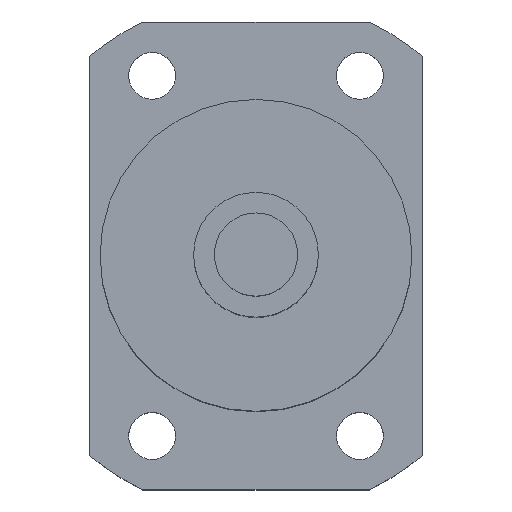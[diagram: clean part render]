
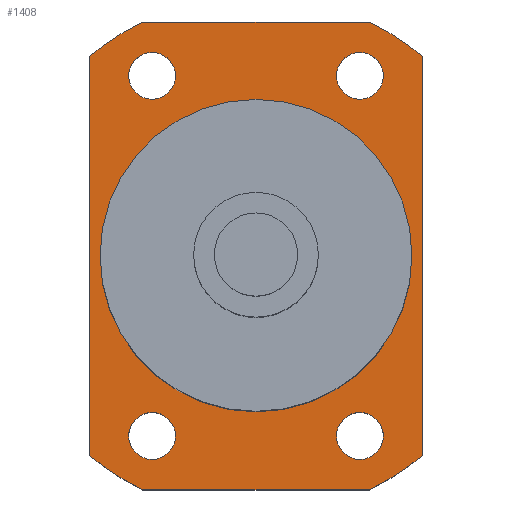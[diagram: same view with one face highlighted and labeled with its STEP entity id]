
A CAD part, top view. The second image highlights one B-rep face of the part: STEP entity #1408.
In plain terms, the highlighted planar face has unit normal (0, 0, 1).
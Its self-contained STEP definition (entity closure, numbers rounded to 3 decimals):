
#328=CARTESIAN_POINT('',(10.,17.321,105.));
#329=DIRECTION('',(0.,0.,-1.));
#330=DIRECTION('',(1.,0.,0.));
#331=AXIS2_PLACEMENT_3D('',#328,#329,#330);
#333=CARTESIAN_POINT('',(10.,17.321,105.));
#334=DIRECTION('',(0.,0.,-1.));
#335=DIRECTION('',(-1.,0.,0.));
#336=AXIS2_PLACEMENT_3D('',#333,#334,#335);
#338=CARTESIAN_POINT('',(-10.,17.321,105.));
#339=DIRECTION('',(0.,0.,-1.));
#340=DIRECTION('',(1.,0.,0.));
#341=AXIS2_PLACEMENT_3D('',#338,#339,#340);
#343=CARTESIAN_POINT('',(-10.,17.321,105.));
#344=DIRECTION('',(0.,0.,-1.));
#345=DIRECTION('',(-1.,0.,0.));
#346=AXIS2_PLACEMENT_3D('',#343,#344,#345);
#348=CARTESIAN_POINT('',(10.,-17.321,105.));
#349=DIRECTION('',(0.,0.,-1.));
#350=DIRECTION('',(1.,0.,0.));
#351=AXIS2_PLACEMENT_3D('',#348,#349,#350);
#353=CARTESIAN_POINT('',(10.,-17.321,105.));
#354=DIRECTION('',(0.,0.,-1.));
#355=DIRECTION('',(-1.,0.,0.));
#356=AXIS2_PLACEMENT_3D('',#353,#354,#355);
#358=CARTESIAN_POINT('',(-10.,-17.321,105.));
#359=DIRECTION('',(0.,0.,-1.));
#360=DIRECTION('',(1.,0.,0.));
#361=AXIS2_PLACEMENT_3D('',#358,#359,#360);
#363=CARTESIAN_POINT('',(-10.,-17.321,105.));
#364=DIRECTION('',(0.,0.,-1.));
#365=DIRECTION('',(-1.,0.,0.));
#366=AXIS2_PLACEMENT_3D('',#363,#364,#365);
#368=CARTESIAN_POINT('',(0.,0.,105.));
#369=DIRECTION('',(0.,0.,1.));
#370=DIRECTION('',(1.,0.,0.));
#371=AXIS2_PLACEMENT_3D('',#368,#369,#370);
#373=CARTESIAN_POINT('',(0.,0.,105.));
#374=DIRECTION('',(0.,0.,1.));
#375=DIRECTION('',(-1.,0.,0.));
#376=AXIS2_PLACEMENT_3D('',#373,#374,#375);
#378=DIRECTION('',(1.,0.,0.));
#379=VECTOR('',#378,21.794);
#380=CARTESIAN_POINT('',(-10.897,22.5,105.));
#381=LINE('',#380,#379);
#382=CARTESIAN_POINT('',(0.,0.,105.));
#383=DIRECTION('',(0.,0.,1.));
#384=DIRECTION('',(0.64,0.768,0.));
#385=AXIS2_PLACEMENT_3D('',#382,#383,#384);
#387=DIRECTION('',(0.,1.,0.));
#388=VECTOR('',#387,38.419);
#389=CARTESIAN_POINT('',(16.,-19.209,105.));
#390=LINE('',#389,#388);
#391=CARTESIAN_POINT('',(0.,0.,105.));
#392=DIRECTION('',(0.,0.,1.));
#393=DIRECTION('',(0.436,-0.9,0.));
#394=AXIS2_PLACEMENT_3D('',#391,#392,#393);
#396=DIRECTION('',(1.,0.,0.));
#397=VECTOR('',#396,21.794);
#398=CARTESIAN_POINT('',(-10.897,-22.5,105.));
#399=LINE('',#398,#397);
#400=CARTESIAN_POINT('',(0.,0.,105.));
#401=DIRECTION('',(0.,0.,1.));
#402=DIRECTION('',(-0.64,-0.768,0.));
#403=AXIS2_PLACEMENT_3D('',#400,#401,#402);
#405=DIRECTION('',(0.,-1.,0.));
#406=VECTOR('',#405,38.419);
#407=CARTESIAN_POINT('',(-16.,19.209,105.));
#408=LINE('',#407,#406);
#409=CARTESIAN_POINT('',(0.,0.,105.));
#410=DIRECTION('',(0.,0.,1.));
#411=DIRECTION('',(-0.436,0.9,0.));
#412=AXIS2_PLACEMENT_3D('',#409,#410,#411);
#721=CARTESIAN_POINT('',(12.25,17.321,105.));
#722=CARTESIAN_POINT('',(7.75,17.321,105.));
#723=VERTEX_POINT('',#721);
#724=VERTEX_POINT('',#722);
#725=CARTESIAN_POINT('',(-7.75,17.321,105.));
#726=CARTESIAN_POINT('',(-12.25,17.321,105.));
#727=VERTEX_POINT('',#725);
#728=VERTEX_POINT('',#726);
#729=CARTESIAN_POINT('',(12.25,-17.321,105.));
#730=CARTESIAN_POINT('',(7.75,-17.321,105.));
#731=VERTEX_POINT('',#729);
#732=VERTEX_POINT('',#730);
#733=CARTESIAN_POINT('',(-7.75,-17.321,105.));
#734=CARTESIAN_POINT('',(-12.25,-17.321,105.));
#735=VERTEX_POINT('',#733);
#736=VERTEX_POINT('',#734);
#737=CARTESIAN_POINT('',(-16.,19.209,105.));
#738=CARTESIAN_POINT('',(-16.,-19.209,105.));
#739=VERTEX_POINT('',#737);
#740=VERTEX_POINT('',#738);
#741=CARTESIAN_POINT('',(16.,-19.209,105.));
#742=CARTESIAN_POINT('',(16.,19.209,105.));
#743=VERTEX_POINT('',#741);
#744=VERTEX_POINT('',#742);
#753=CARTESIAN_POINT('',(15.,0.,105.));
#754=CARTESIAN_POINT('',(-15.,0.,105.));
#755=VERTEX_POINT('',#753);
#756=VERTEX_POINT('',#754);
#829=CARTESIAN_POINT('',(-10.897,22.5,105.));
#830=CARTESIAN_POINT('',(10.897,22.5,105.));
#831=VERTEX_POINT('',#829);
#832=VERTEX_POINT('',#830);
#833=CARTESIAN_POINT('',(-10.897,-22.5,105.));
#834=CARTESIAN_POINT('',(10.897,-22.5,105.));
#835=VERTEX_POINT('',#833);
#836=VERTEX_POINT('',#834);
#1357=CARTESIAN_POINT('',(0.,0.,105.));
#1358=DIRECTION('',(0.,0.,1.));
#1359=DIRECTION('',(1.,0.,0.));
#1360=AXIS2_PLACEMENT_3D('',#1357,#1358,#1359);
#1361=PLANE('',#1360);
#1363=ORIENTED_EDGE('',*,*,#1362,.T.);
#1365=ORIENTED_EDGE('',*,*,#1364,.F.);
#1367=ORIENTED_EDGE('',*,*,#1366,.F.);
#1369=ORIENTED_EDGE('',*,*,#1368,.F.);
#1371=ORIENTED_EDGE('',*,*,#1370,.F.);
#1373=ORIENTED_EDGE('',*,*,#1372,.F.);
#1375=ORIENTED_EDGE('',*,*,#1374,.F.);
#1377=ORIENTED_EDGE('',*,*,#1376,.F.);
#1378=EDGE_LOOP('',(#1363,#1365,#1367,#1369,#1371,#1373,#1375,#1377));
#1379=FACE_OUTER_BOUND('',#1378,.F.);
#1380=ORIENTED_EDGE('',*,*,#1337,.F.);
#1381=ORIENTED_EDGE('',*,*,#1351,.F.);
#1382=EDGE_LOOP('',(#1380,#1381));
#1383=FACE_BOUND('',#1382,.F.);
#1385=ORIENTED_EDGE('',*,*,#1384,.F.);
#1387=ORIENTED_EDGE('',*,*,#1386,.F.);
#1388=EDGE_LOOP('',(#1385,#1387));
#1389=FACE_BOUND('',#1388,.F.);
#1391=ORIENTED_EDGE('',*,*,#1390,.F.);
#1393=ORIENTED_EDGE('',*,*,#1392,.F.);
#1394=EDGE_LOOP('',(#1391,#1393));
#1395=FACE_BOUND('',#1394,.F.);
#1397=ORIENTED_EDGE('',*,*,#1396,.F.);
#1399=ORIENTED_EDGE('',*,*,#1398,.F.);
#1400=EDGE_LOOP('',(#1397,#1399));
#1401=FACE_BOUND('',#1400,.F.);
#1403=ORIENTED_EDGE('',*,*,#1402,.T.);
#1405=ORIENTED_EDGE('',*,*,#1404,.T.);
#1406=EDGE_LOOP('',(#1403,#1405));
#1407=FACE_BOUND('',#1406,.F.);
#1408=ADVANCED_FACE('',(#1379,#1383,#1389,#1395,#1401,#1407),#1361,.T.);
#332=CIRCLE('',#331,2.25);
#337=CIRCLE('',#336,2.25);
#342=CIRCLE('',#341,2.25);
#347=CIRCLE('',#346,2.25);
#352=CIRCLE('',#351,2.25);
#357=CIRCLE('',#356,2.25);
#362=CIRCLE('',#361,2.25);
#367=CIRCLE('',#366,2.25);
#372=CIRCLE('',#371,15.);
#377=CIRCLE('',#376,15.);
#386=CIRCLE('',#385,25.);
#395=CIRCLE('',#394,25.);
#404=CIRCLE('',#403,25.);
#413=CIRCLE('',#412,25.);
#1337=EDGE_CURVE('',#723,#724,#332,.T.);
#1351=EDGE_CURVE('',#724,#723,#337,.T.);
#1362=EDGE_CURVE('',#831,#832,#381,.T.);
#1364=EDGE_CURVE('',#744,#832,#386,.T.);
#1366=EDGE_CURVE('',#743,#744,#390,.T.);
#1368=EDGE_CURVE('',#836,#743,#395,.T.);
#1370=EDGE_CURVE('',#835,#836,#399,.T.);
#1372=EDGE_CURVE('',#740,#835,#404,.T.);
#1374=EDGE_CURVE('',#739,#740,#408,.T.);
#1376=EDGE_CURVE('',#831,#739,#413,.T.);
#1384=EDGE_CURVE('',#727,#728,#342,.T.);
#1386=EDGE_CURVE('',#728,#727,#347,.T.);
#1390=EDGE_CURVE('',#731,#732,#352,.T.);
#1392=EDGE_CURVE('',#732,#731,#357,.T.);
#1396=EDGE_CURVE('',#735,#736,#362,.T.);
#1398=EDGE_CURVE('',#736,#735,#367,.T.);
#1402=EDGE_CURVE('',#755,#756,#372,.T.);
#1404=EDGE_CURVE('',#756,#755,#377,.T.);
